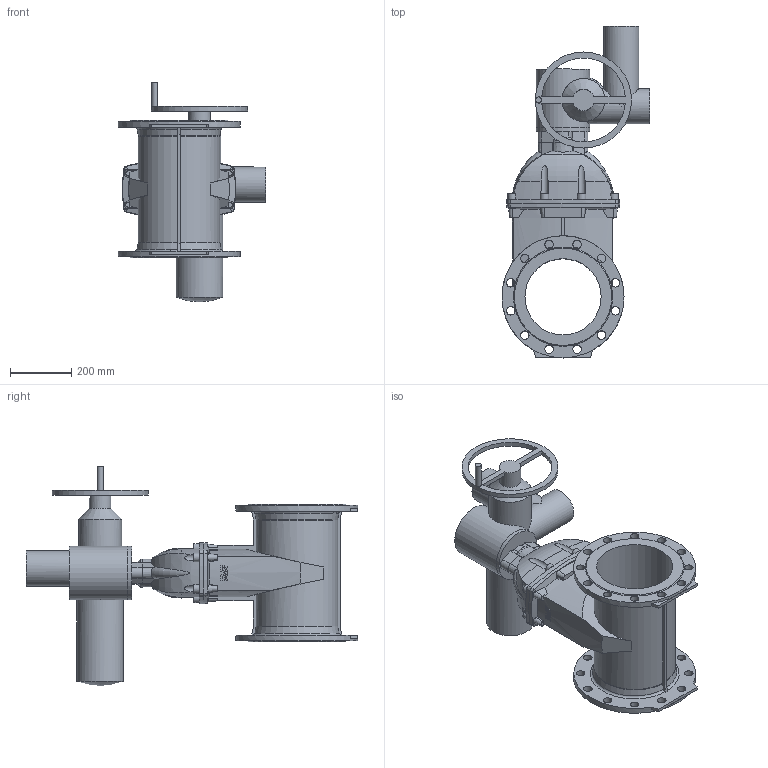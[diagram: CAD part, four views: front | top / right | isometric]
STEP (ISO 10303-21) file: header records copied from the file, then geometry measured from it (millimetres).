
FILE_DESCRIPTION (( 'STEP AP203' ), '1' );
FILE_NAME ('O_15_72_DN250_X1X_SA14.2_AA0.step', '2017-03-20T13:07:12', ( 'Windows User' ), ( 'AVK' ), 'SwSTEP 2.0', 'SolidWorks 2012', '' );
FILE_SCHEMA (( 'CONFIG_CONTROL_DESIGN' ));
Length unit declared in the file: inch
Products named in the file (1): O_15_72_DN250_X1X_SA14.2_AA0
Bounding box: 485 x 1088 x 721 mm (x, y, z)
Volume: 41306928.7 mm3; surface area: 2041660.7 mm2
Topology: 1 solids, 1 shells, 323 faces, 926 edges, 612 vertices
Faces by surface type: plane 111, cylinder 76, cone 65, bspline 54, torus 16, sphere 1
Full cylindrical faces by diameter (mm): 20 x1, 28 x24, 70.266 x1, 115 x2, 140.708 x1, 153 x1, 175 x2, 250 x1, 315 x1, 400 x2
Entity records: 13897 total; most frequent: CARTESIAN_POINT 6235, ORIENTED_EDGE 1700, DIRECTION 1340, EDGE_CURVE 850, VERTEX_POINT 580, AXIS2_PLACEMENT_3D 563, EDGE_LOOP 428, FACE_OUTER_BOUND 359
